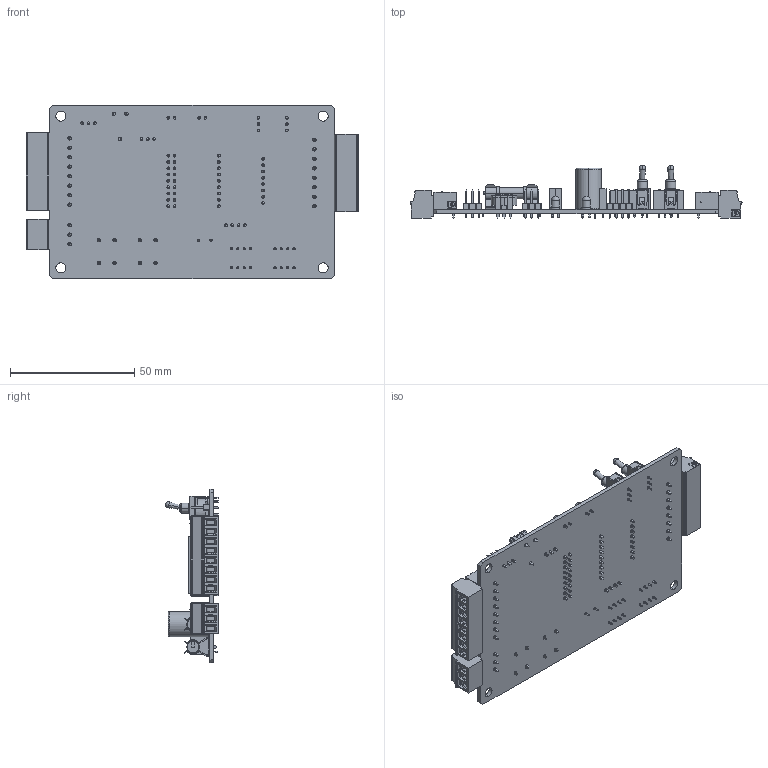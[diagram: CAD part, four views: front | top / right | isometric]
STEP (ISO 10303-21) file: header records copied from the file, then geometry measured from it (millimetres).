
FILE_DESCRIPTION (( 'STEP AP214' ), '1' );
FILE_NAME ('MDC020-EVALBD.STEP', '2016-11-30T23:39:59', ( '' ), ( '' ), 'SwSTEP 2.0', 'SolidWorks 2016', '' );
FILE_SCHEMA (( 'AUTOMOTIVE_DESIGN' ));
Length unit declared in the file: inch
Products named in the file (24): CON-PPPC081LFBN-RC; 1803280; CON-PPPC091LFBN-RC; CAP-0223; SWT-ATE1D-2M3-10-Z; AA6733PCB; _3001A_29_12; _3001A_229_10; MDC020-EVALBD; _3001A_329_8; _1001A_2_6; _1001A_1_4; _2001A1__ATE__2; LED-T-1-Series_LED-T-1-RED; LED-T-1-Series_LED-T-1-GRN; SWT-206-4; CON-929834-04; CON-929834-01-03; FUS-5MMTYPE; CLP-44FH052; POT-PT10LV10K; 1803633; 1803581; 1803332
Assembly tree (34 placements, depth 3):
  MDC020-EVALBD
    AA6733PCB
    CAP-0223
    1803280
    1803332  x2
    1803581
    1803633  x2
    POT-PT10LV10K
    CLP-44FH052  x4
    FUS-5MMTYPE  x2
    CON-929834-01-03  x2
    CON-929834-04
    SWT-206-4  x2
    LED-T-1-Series_LED-T-1-GRN
    LED-T-1-Series_LED-T-1-RED
    SWT-ATE1D-2M3-10-Z  x2
      _2001A1__ATE__2
      _1001A_1_4
      _1001A_2_6
      _3001A_329_8
      _3001A_229_10
      _3001A_29_12
    CON-PPPC091LFBN-RC  x3
    CON-PPPC081LFBN-RC
Bounding box: 133.43 x 21.34 x 69.85 mm (x, y, z)
Volume: 30039.2 mm3; surface area: 39523.9 mm2
Topology: 38 solids, 38 shells, 5184 faces, 13220 edges, 8467 vertices
Faces by surface type: plane 3657, cylinder 1181, bspline 182, cone 93, sphere 38, torus 33
Entity records: 132946 total; most frequent: CARTESIAN_POINT 20882, ORIENTED_EDGE 15112, DIRECTION 14471, EDGE_CURVE 7556, VECTOR 5487, LINE 5487, VERTEX_POINT 4878, AXIS2_PLACEMENT_3D 4492
